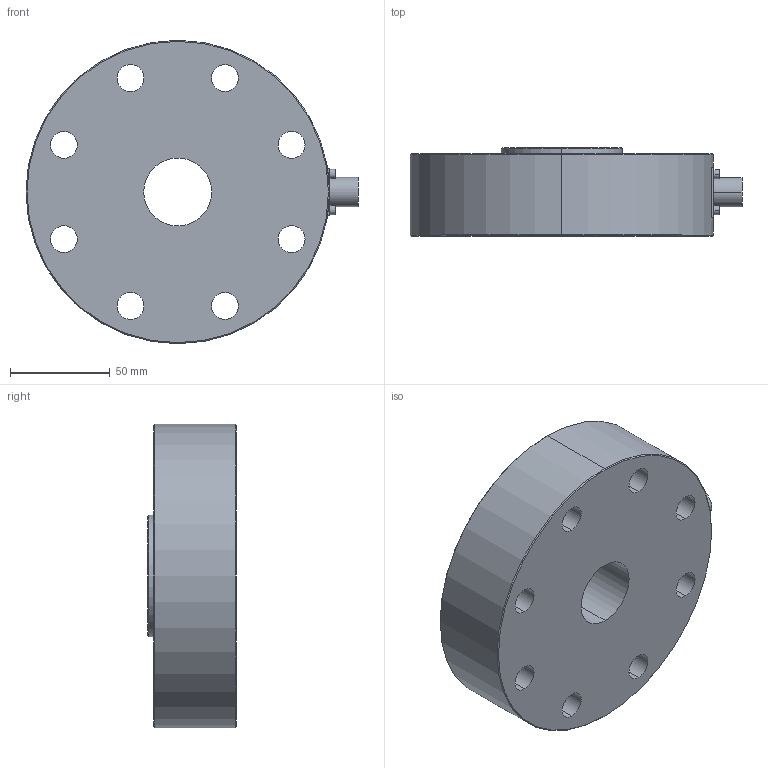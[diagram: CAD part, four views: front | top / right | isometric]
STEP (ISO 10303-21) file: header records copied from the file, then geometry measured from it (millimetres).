
FILE_DESCRIPTION (( 'STEP AP214' ), '1' );
FILE_NAME ('SS1242-20KLB.STEP', '2025-05-14T15:22:32', ( '' ), ( '' ), 'SwSTEP 2.0', 'SolidWorks 2025', '' );
FILE_SCHEMA (( 'AUTOMOTIVE_DESIGN' ));
Length unit declared in the file: inch
Products named in the file (1): SS1242-20KLB
Bounding box: 166.75 x 44.45 x 152.4 mm (x, y, z)
Volume: 678862.4 mm3; surface area: 72131.4 mm2
Topology: 1 solids, 1 shells, 51 faces, 120 edges, 78 vertices
Faces by surface type: cylinder 32, plane 13, cone 6
Entity records: 1561 total; most frequent: DIRECTION 296, CARTESIAN_POINT 250, ORIENTED_EDGE 240, AXIS2_PLACEMENT_3D 124, EDGE_CURVE 120, VERTEX_POINT 78, EDGE_LOOP 76, CIRCLE 72
